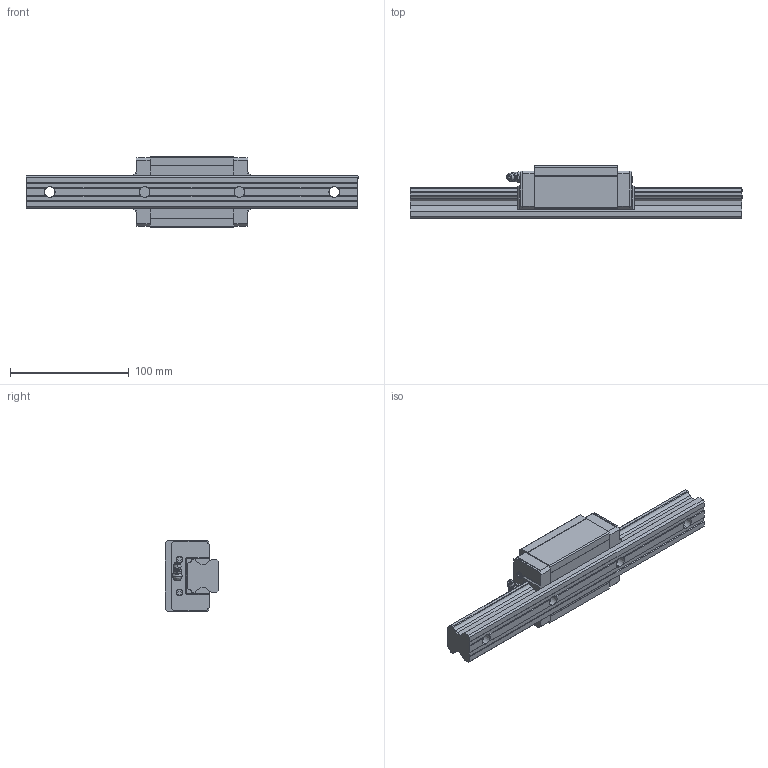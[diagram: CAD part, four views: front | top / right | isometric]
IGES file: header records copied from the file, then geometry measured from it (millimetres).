
Start section: SolidWorks IGES file using analytic representation for surfaces
Global section: file name: D:\Qsync\EOS Design B.V\Projecten\LM Systems\Models HSV\FINISHED\HSV30RSS.IGS; native system: SolidWorks 2016; preprocessor: SolidWorks 2016; author: EOS; date: 160314.144643; units: millimetre
Bounding box: 280 x 45 x 60 mm (x, y, z)
Surface area: 63202.1 mm2 (no closed solid volume)
Topology: 0 solids, 0 shells, 303 faces, 2990 edges, 2974 vertices
Faces by surface type: bspline 219, revolution 84
